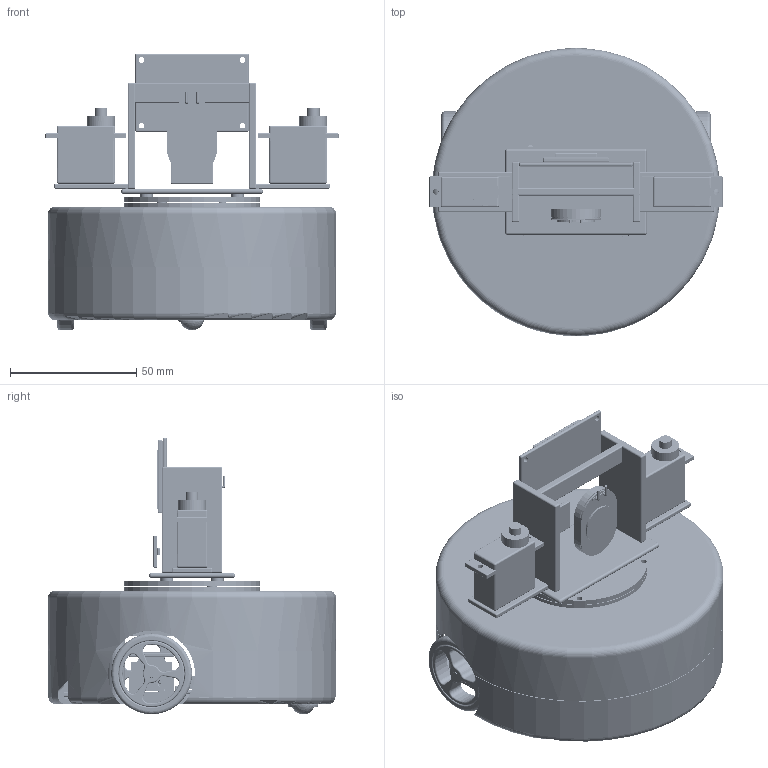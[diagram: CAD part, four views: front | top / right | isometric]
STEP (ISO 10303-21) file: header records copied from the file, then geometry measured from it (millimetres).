
FILE_DESCRIPTION(('Open CASCADE Model'),'2;1');
FILE_NAME('Open CASCADE Shape Model','2026-09-29T14:45:03',('Author'),( 'Open CASCADE'),'Open CASCADE STEP processor 8.0','build123d', 'Unknown');
FILE_SCHEMA(('AUTOMOTIVE_DESIGN { 1 0 10303 214 1 1 1 1 }'));
Length unit declared in the file: millimetre
Products named in the file (28): COMPOUND; 10_motor_R; 12_wheel_R; 14_ball_caster; 11_motor_clamp_L; 11_motor_clamp_R; 03_battery_tray; 20_battery_1200mAh; 28_cliff_R; 08_front_range_mount; 08_cliff_L_mount; 08_cliff_R_mount; 22_DRV8833; 24_boost_5V; 26_MAX98357_amp; 25_USB_C_charger; 21_ESP32_S3_Plus; 23_IMU_LSM6DS3; 30_body_adapter; 31_upper_rack; 33_servo_L; 33_servo_R; 34_display_ST7789; 35_speaker; 36_microphone; 01_bottom_shell; 02_top_shell; 04_electronics_deck
Assembly tree (31 placements, depth 2):
  COMPOUND
    10_motor_R  x2
    12_wheel_R  x2
    14_ball_caster
    11_motor_clamp_L
    11_motor_clamp_R
    03_battery_tray
    20_battery_1200mAh
    28_cliff_R  x3
    08_front_range_mount
    08_cliff_L_mount
    08_cliff_R_mount
    22_DRV8833
    24_boost_5V
    26_MAX98357_amp
    25_USB_C_charger
    21_ESP32_S3_Plus
    23_IMU_LSM6DS3
    30_body_adapter
    31_upper_rack
    33_servo_L
    33_servo_R
    34_display_ST7789
    35_speaker
    36_microphone
    01_bottom_shell
    02_top_shell
    04_electronics_deck
Bounding box: 116 x 114 x 109.5 mm (x, y, z)
Volume: 169334.7 mm3; surface area: 160455.2 mm2
Topology: 72 solids, 80 shells, 12963 faces, 35922 edges, 23448 vertices
Faces by surface type: plane 6569, cylinder 3910, bspline 2093, sphere 240, torus 129, cone 22
Full cylindrical faces by diameter (mm): 0.5 x19, 0.65 x2, 0.9 x3, 1 x22, 1.7 x16, 1.8 x4, 2 x4, 2.2 x12, 2.3 x14, 2.4 x6, 2.5 x6, 2.6 x4, 3 x1, 3.4 x4, 3.5 x1, 4 x1, 4.4 x6, 4.5 x1, 5 x6, 5.2 x6, 5.4 x4, 6 x8, 6.4 x4, 7.2 x8, 11 x2, 13.2 x2, 15.2 x2, 32 x2, 54 x2, 110 x1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
Entity records: 657473 total; most frequent: CARTESIAN_POINT 248872, DIRECTION 61686, ORIENTED_EDGE 44660, PCURVE 44660, DEFINITIONAL_REPRESENTATION 44660, LINE 39565, VECTOR 39565, EDGE_CURVE 22330
